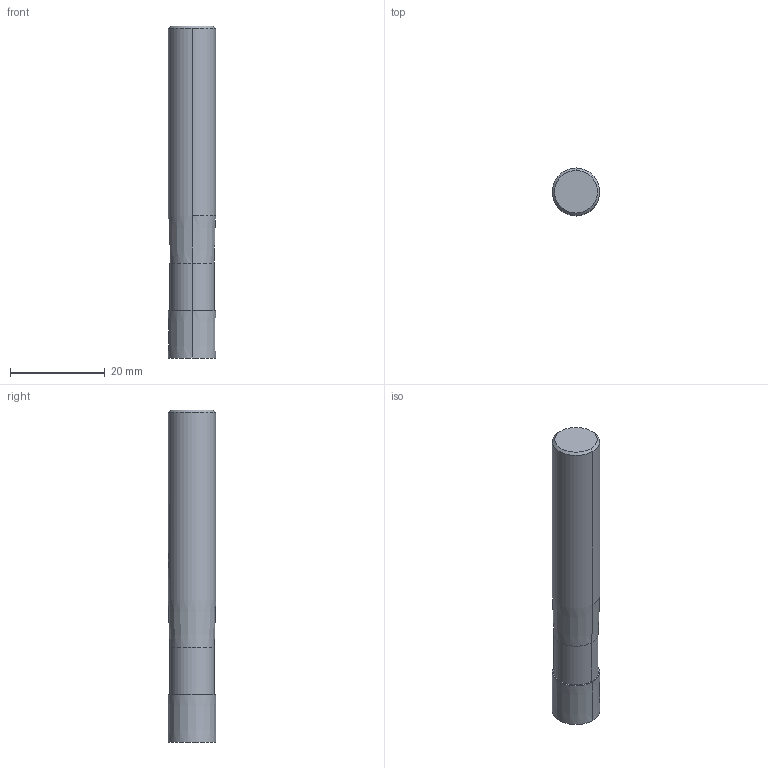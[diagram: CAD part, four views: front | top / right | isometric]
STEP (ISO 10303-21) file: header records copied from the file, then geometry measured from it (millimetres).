
FILE_DESCRIPTION(('no description'),'unknown implementation level');
FILE_NAME('solidUOEfHad0jlS5DsZ219G5qMaHPz0_1.STP',' ',('CIMSOURCE GmbH'),('CADClick - KiM GmbH - www.kimweb.de'),'unknown preprocess','ACIS','unknown authorization');
FILE_SCHEMA(('automotive_design'));
Length unit declared in the file: millimetre
Products named in the file (2): NOCUT; CUT
Bounding box: 10 x 10 x 70 mm (x, y, z)
Volume: 5352.7 mm3; surface area: 2734 mm2
Topology: 2 solids, 2 shells, 37 faces, 85 edges, 54 vertices
Faces by surface type: cylinder 16, plane 11, cone 10
Entity records: 2330 total; most frequent: CARTESIAN_POINT 432, DIRECTION 191, STYLED_ITEM 178, PRESENTATION_STYLE_ASSIGNMENT 178, COLOUR_RGB 178, ORIENTED_EDGE 170, EDGE_CURVE 85, CURVE_STYLE 85
